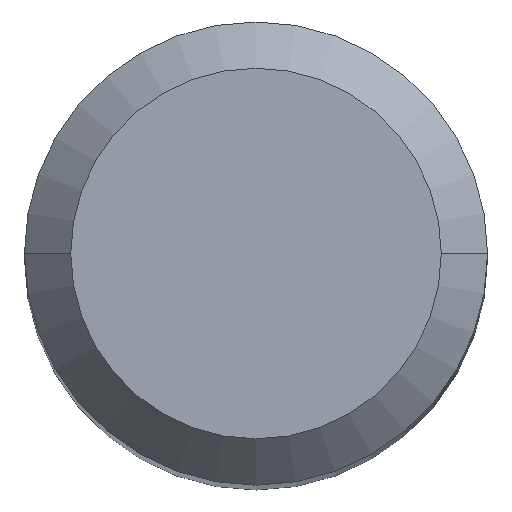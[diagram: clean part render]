
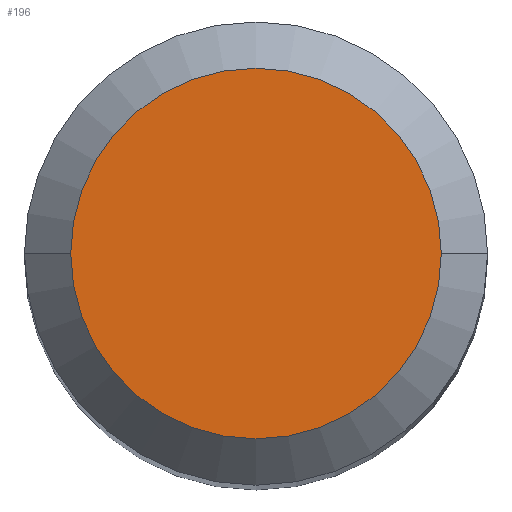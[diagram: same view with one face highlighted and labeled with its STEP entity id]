
A CAD part, top view. The second image highlights one B-rep face of the part: STEP entity #196.
In plain terms, the highlighted planar face has unit normal (0, 0, 1).
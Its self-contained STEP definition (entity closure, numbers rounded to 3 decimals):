
#35 = ORIENTED_EDGE ( 'NONE', *, *, #367, .F. ) ;
#53 = DIRECTION ( 'NONE',  ( 0., 0., 1. ) ) ;
#56 = DIRECTION ( 'NONE',  ( 0., 0., -1. ) ) ;
#79 = AXIS2_PLACEMENT_3D ( 'NONE', #217, #53, #498 ) ;
#80 = ORIENTED_EDGE ( 'NONE', *, *, #473, .F. ) ;
#106 = DIRECTION ( 'NONE',  ( -1., 0., 0. ) ) ;
#129 = CARTESIAN_POINT ( 'NONE',  ( 0., 0., 0. ) ) ;
#159 = CIRCLE ( 'NONE', #477, 2.4 ) ;
#164 = FACE_OUTER_BOUND ( 'NONE', #189, .T. ) ;
#189 = EDGE_LOOP ( 'NONE', ( #80, #35 ) ) ;
#196 = ADVANCED_FACE ( 'NONE', ( #164 ), #443, .T. ) ;
#208 = VERTEX_POINT ( 'NONE', #402 ) ;
#217 = CARTESIAN_POINT ( 'NONE',  ( 0., 2.4, 0. ) ) ;
#251 = CIRCLE ( 'NONE', #338, 2.4 ) ;
#313 = DIRECTION ( 'NONE',  ( 0., 0., -1. ) ) ;
#338 = AXIS2_PLACEMENT_3D ( 'NONE', #365, #56, #106 ) ;
#365 = CARTESIAN_POINT ( 'NONE',  ( 0., 0., 0. ) ) ;
#367 = EDGE_CURVE ( 'NONE', #483, #208, #159, .T. ) ;
#402 = CARTESIAN_POINT ( 'NONE',  ( -2.4, 0., 0. ) ) ;
#443 = PLANE ( 'NONE',  #79 ) ;
#466 = CARTESIAN_POINT ( 'NONE',  ( 2.4, 0., 0. ) ) ;
#473 = EDGE_CURVE ( 'NONE', #208, #483, #251, .T. ) ;
#477 = AXIS2_PLACEMENT_3D ( 'NONE', #129, #313, #486 ) ;
#483 = VERTEX_POINT ( 'NONE', #466 ) ;
#486 = DIRECTION ( 'NONE',  ( -1., 0., 0. ) ) ;
#498 = DIRECTION ( 'NONE',  ( 1., 0., 0. ) ) ;
